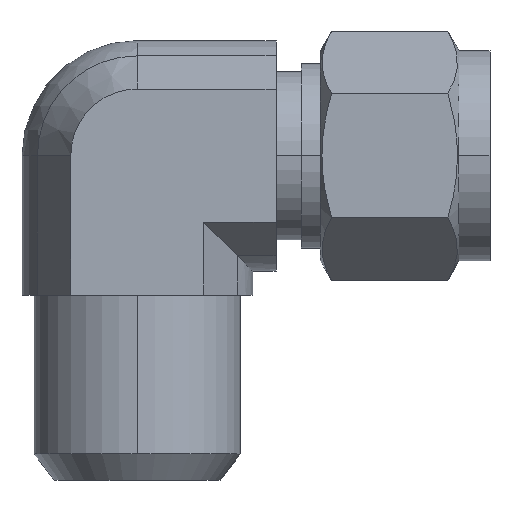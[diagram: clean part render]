
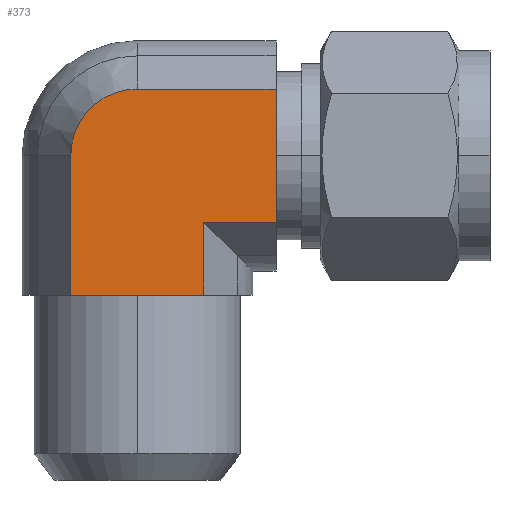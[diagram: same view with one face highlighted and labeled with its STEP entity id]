
A CAD part, top view. The second image highlights one B-rep face of the part: STEP entity #373.
In plain terms, the highlighted planar face has unit normal (0, 0, 1).
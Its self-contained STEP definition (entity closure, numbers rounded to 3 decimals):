
#342 = VERTEX_POINT ( 'NONE', #1281 ) ;
#344 = EDGE_CURVE ( 'NONE', #345, #342, #1280, .T. ) ;
#345 = VERTEX_POINT ( 'NONE', #1276 ) ;
#368 = VERTEX_POINT ( 'NONE', #1381 ) ;
#370 = EDGE_CURVE ( 'NONE', #386, #368, #1380, .T. ) ;
#373 = ADVANCED_FACE ( 'NONE', ( #1376 ), #1375, .F. ) ;
#374 = EDGE_LOOP ( 'NONE', ( #375, #378, #380, #484, #485, #488, #490 ) ) ;
#375 = ORIENTED_EDGE ( 'NONE', *, *, #376, .T. ) ;
#376 = EDGE_CURVE ( 'NONE', #342, #377, #1373, .T. ) ;
#377 = VERTEX_POINT ( 'NONE', #1366 ) ;
#378 = ORIENTED_EDGE ( 'NONE', *, *, #379, .F. ) ;
#379 = EDGE_CURVE ( 'NONE', #389, #377, #1365, .T. ) ;
#380 = ORIENTED_EDGE ( 'NONE', *, *, #388, .F. ) ;
#386 = VERTEX_POINT ( 'NONE', #1409 ) ;
#388 = EDGE_CURVE ( 'NONE', #386, #389, #1408, .T. ) ;
#389 = VERTEX_POINT ( 'NONE', #1404 ) ;
#484 = ORIENTED_EDGE ( 'NONE', *, *, #370, .T. ) ;
#485 = ORIENTED_EDGE ( 'NONE', *, *, #486, .F. ) ;
#486 = EDGE_CURVE ( 'NONE', #487, #368, #1467, .T. ) ;
#487 = VERTEX_POINT ( 'NONE', #1524 ) ;
#488 = ORIENTED_EDGE ( 'NONE', *, *, #489, .F. ) ;
#489 = EDGE_CURVE ( 'NONE', #345, #487, #1523, .T. ) ;
#490 = ORIENTED_EDGE ( 'NONE', *, *, #344, .T. ) ;
#1276 = CARTESIAN_POINT ( 'NONE',  ( -6.87, -14.4, 11.9 ) ) ;
#1277 = DIRECTION ( 'NONE',  ( 1., 0., 0. ) ) ;
#1278 = VECTOR ( 'NONE', #1277, 1000. ) ;
#1279 = CARTESIAN_POINT ( 'NONE',  ( -6.87, -14.4, 11.9 ) ) ;
#1280 = LINE ( 'NONE', #1279, #1278 ) ;
#1281 = CARTESIAN_POINT ( 'NONE',  ( 6.87, -14.4, 11.9 ) ) ;
#1362 = DIRECTION ( 'NONE',  ( -1., 0., 0. ) ) ;
#1363 = VECTOR ( 'NONE', #1362, 1000. ) ;
#1364 = CARTESIAN_POINT ( 'NONE',  ( 14.32, -6.87, 11.9 ) ) ;
#1365 = LINE ( 'NONE', #1364, #1363 ) ;
#1366 = CARTESIAN_POINT ( 'NONE',  ( 6.87, -6.87, 11.9 ) ) ;
#1367 = DIRECTION ( 'NONE',  ( 0., 1., 0. ) ) ;
#1368 = VECTOR ( 'NONE', #1367, 1000. ) ;
#1369 = CARTESIAN_POINT ( 'NONE',  ( 6.87, -14.4, 11.9 ) ) ;
#1370 = DIRECTION ( 'NONE',  ( 0., 1., 0. ) ) ;
#1371 = DIRECTION ( 'NONE',  ( 0., 0., -1. ) ) ;
#1372 = AXIS2_PLACEMENT_3D ( 'NONE', #1374, #1371, #1370 ) ;
#1373 = LINE ( 'NONE', #1369, #1368 ) ;
#1374 = CARTESIAN_POINT ( 'NONE',  ( 14.32, 6.87, 11.9 ) ) ;
#1375 = PLANE ( 'NONE',  #1372 ) ;
#1376 = FACE_OUTER_BOUND ( 'NONE', #374, .T. ) ;
#1377 = DIRECTION ( 'NONE',  ( -1., 0., 0. ) ) ;
#1378 = VECTOR ( 'NONE', #1377, 1000. ) ;
#1379 = CARTESIAN_POINT ( 'NONE',  ( 14.32, 6.87, 11.9 ) ) ;
#1380 = LINE ( 'NONE', #1379, #1378 ) ;
#1381 = CARTESIAN_POINT ( 'NONE',  ( 0., 6.87, 11.9 ) ) ;
#1404 = CARTESIAN_POINT ( 'NONE',  ( 14.32, -6.87, 11.9 ) ) ;
#1405 = DIRECTION ( 'NONE',  ( 0., -1., 0. ) ) ;
#1406 = VECTOR ( 'NONE', #1405, 1000. ) ;
#1407 = CARTESIAN_POINT ( 'NONE',  ( 14.32, 6.87, 11.9 ) ) ;
#1408 = LINE ( 'NONE', #1407, #1406 ) ;
#1409 = CARTESIAN_POINT ( 'NONE',  ( 14.32, 6.87, 11.9 ) ) ;
#1466 = AXIS2_PLACEMENT_3D ( 'NONE', #1527, #1526, #1525 ) ;
#1467 = CIRCLE ( 'NONE', #1466, 6.87 ) ;
#1520 = DIRECTION ( 'NONE',  ( 0., 1., 0. ) ) ;
#1521 = VECTOR ( 'NONE', #1520, 1000. ) ;
#1522 = CARTESIAN_POINT ( 'NONE',  ( -6.87, -14.4, 11.9 ) ) ;
#1523 = LINE ( 'NONE', #1522, #1521 ) ;
#1524 = CARTESIAN_POINT ( 'NONE',  ( -6.87, 0., 11.9 ) ) ;
#1525 = DIRECTION ( 'NONE',  ( 0., 1., 0. ) ) ;
#1526 = DIRECTION ( 'NONE',  ( 0., 0., -1. ) ) ;
#1527 = CARTESIAN_POINT ( 'NONE',  ( 0., 0., 11.9 ) ) ;
